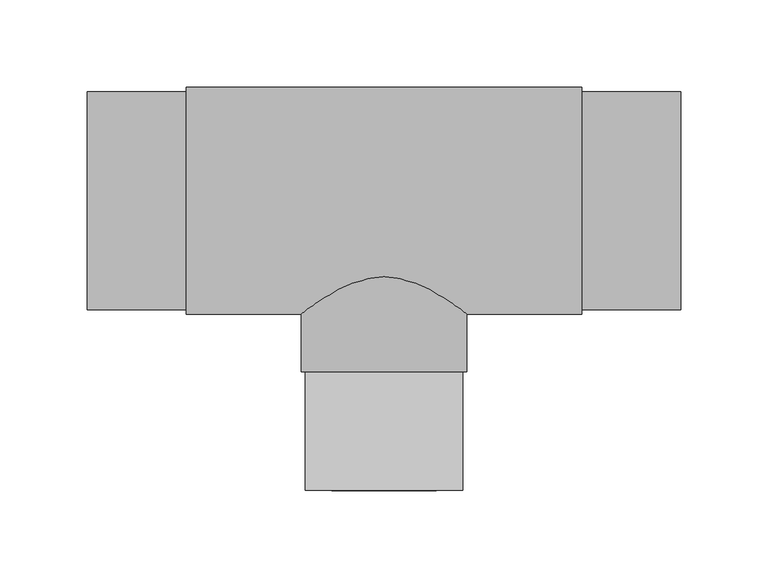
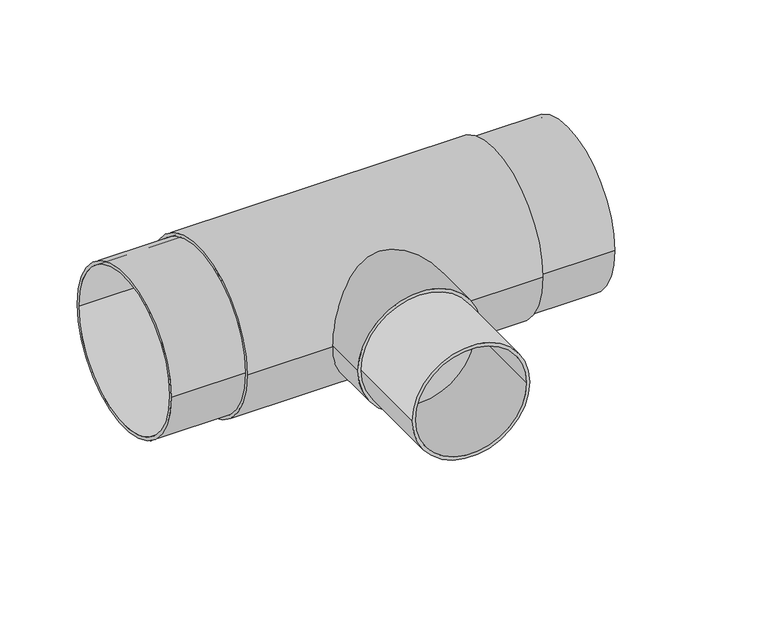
"""IFC4 building model written with IfcOpenShell, lengths in millimetres: pipe fitting geometry, EGB_VASEN_ PPR_Te a tope WXRB300_Te reducida a tope WXRB310 : Te a tope."""

from ifc_helpers import new_model, si_unit, point, frame, origin, origin_2d, place, context, project, spatial, circle_curve, trimmed, segment, composite_curve, outline, extrude, source, transform, mapped, element, save


def pipe_fitting_113be5ed(model_context):
    return source(origin(), model_context, "Body", "SweptSolid", [
        extrude(outline(composite_curve([segment(trimmed(circle_curve(origin_2d(), 45.0), [point((0.0, 45.0))], [point((0.0, -45.0))], False, "CARTESIAN"), True, "CONTINUOUS"), segment(trimmed(circle_curve(origin_2d(), 45.0), [point((0.0, -45.0))], [point((0.0, 45.0))], False, "CARTESIAN"), True, "CONTINUOUS")], self_intersect=False), holes=[composite_curve([segment(trimmed(circle_curve(origin_2d(), 42.5), [point((0.0, 42.5))], [point((0.0, -42.5))], True, "CARTESIAN"), True, "CONTINUOUS"), segment(trimmed(circle_curve(origin_2d(), 42.5), [point((0.0, -42.5))], [point((0.0, 42.5))], True, "CARTESIAN"), True, "CONTINUOUS")], self_intersect=False)]), frame((0.0, -166.0, 0.0), z_axis=(0.0, 1.0, 0.0), x_axis=(0.0, 0.0, 1.0)), (0.0, 0.0, 1.0), 68.0),
        extrude(outline(composite_curve([segment(trimmed(circle_curve(origin_2d(), 47.5), [point((0.0, 47.5))], [point((0.0, -47.5))], False, "CARTESIAN"), True, "CONTINUOUS"), segment(trimmed(circle_curve(origin_2d(), 47.5), [point((0.0, -47.5))], [point((0.0, 47.5))], False, "CARTESIAN"), True, "CONTINUOUS")], self_intersect=False)), frame((0.0, -98.0, 0.0), z_axis=(0.0, 1.0, 0.0), x_axis=(0.0, 0.0, 1.0)), (0.0, 0.0, 1.0), 98.0),
        extrude(outline(composite_curve([segment(trimmed(circle_curve(origin_2d(), 65.0), [point((-65.0, 0.0))], [point((65.0, 0.0))], False, "CARTESIAN"), True, "CONTINUOUS"), segment(trimmed(circle_curve(origin_2d(), 65.0), [point((65.0, 0.0))], [point((-65.0, 0.0))], False, "CARTESIAN"), True, "CONTINUOUS")], self_intersect=False), holes=[composite_curve([segment(trimmed(circle_curve(origin_2d(), 62.5), [point((-62.5, 0.0))], [point((62.5, 0.0))], True, "CARTESIAN"), True, "CONTINUOUS"), segment(trimmed(circle_curve(origin_2d(), 62.5), [point((62.5, 0.0))], [point((-62.5, 0.0))], True, "CARTESIAN"), True, "CONTINUOUS")], self_intersect=False)]), frame((-113.3333333, 0.0, 0.0), z_axis=(1.0, 0.0, 0.0), x_axis=(0.0, 1.0, 0.0)), (0.0, 0.0, 1.0), 226.6666667),
        extrude(outline(composite_curve([segment(trimmed(circle_curve(origin_2d(), 62.5), [point((-62.5, 0.0))], [point((62.5, 0.0))], False, "CARTESIAN"), True, "CONTINUOUS"), segment(trimmed(circle_curve(origin_2d(), 62.5), [point((62.5, 0.0))], [point((-62.5, 0.0))], False, "CARTESIAN"), True, "CONTINUOUS")], self_intersect=False), holes=[composite_curve([segment(trimmed(circle_curve(origin_2d(), 60.0), [point((-60.0, 0.0))], [point((60.0, 0.0))], True, "CARTESIAN"), True, "CONTINUOUS"), segment(trimmed(circle_curve(origin_2d(), 60.0), [point((60.0, 0.0))], [point((-60.0, 0.0))], True, "CARTESIAN"), True, "CONTINUOUS")], self_intersect=False)]), frame((-170.0, 0.0, 0.0), z_axis=(1.0, 0.0, 0.0), x_axis=(0.0, 1.0, 0.0)), (0.0, 0.0, 1.0), 340.0),
    ])


if __name__ == "__main__":
    model = new_model("IFC4")
    model_context = context("Model", 3, world=origin())
    ifc_project = project(units=[si_unit("LENGTHUNIT", "METRE", prefix="MILLI")], contexts=[model_context])
    site = spatial("IfcSite", under=ifc_project)
    building = spatial("IfcBuilding", under=site)
    placement = place(None, origin())
    pipe_fitting_shape = pipe_fitting_113be5ed(model_context)
    element("IfcPipeFitting", 1, ObjectType="EGB_VASEN_ PPR_Te a tope WXRB300_Te reducida a tope WXRB310 : Te a tope", at=placement, inside=building, context=model_context, shape_type="MappedRepresentation", body=[
        mapped(pipe_fitting_shape, transform((0.0, 0.0, 0.0), x_axis=(1.0, 0.0, 0.0), y_axis=(0.0, 1.0, 0.0), z_axis=(0.0, 0.0, 1.0))),
    ])
    save(model, "model.ifc")
